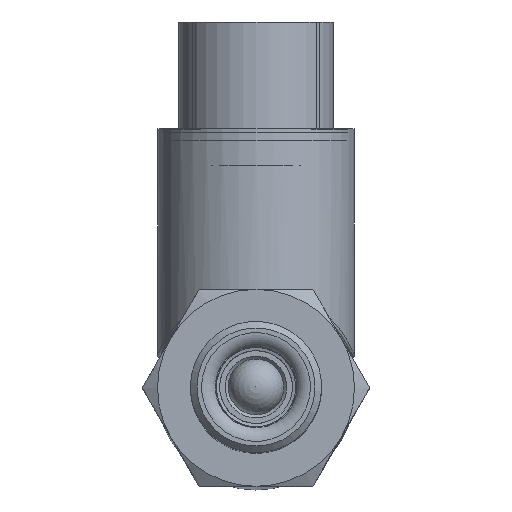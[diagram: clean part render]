
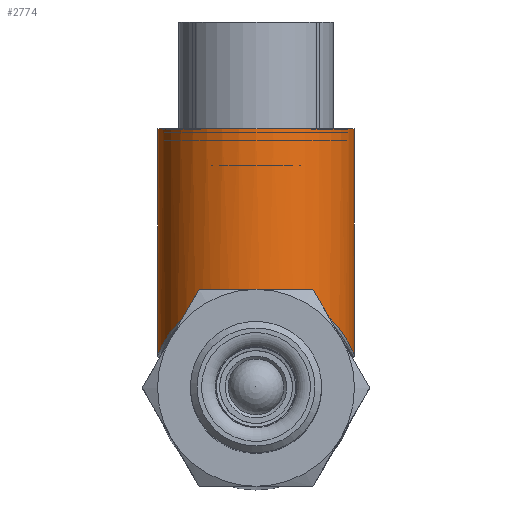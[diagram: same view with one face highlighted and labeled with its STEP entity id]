
A CAD part, top view. The second image highlights one B-rep face of the part: STEP entity #2774.
In plain terms, the highlighted cylindrical face has radius 9.525 mm (diameter 19.05 mm), a full revolution.
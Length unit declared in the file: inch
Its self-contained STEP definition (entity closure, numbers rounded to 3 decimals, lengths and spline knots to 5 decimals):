
#70=B_SPLINE_CURVE_WITH_KNOTS('',3,(#6430,#6431,#6432,#6433,#6434,#6435,
#6436,#6437,#6438,#6439,#6440,#6441,#6442,#6443,#6444,#6445,#6446,#6447,
#6448,#6449,#6450,#6451,#6452,#6453,#6454,#6455,#6456,#6457,#6458,#6459,
#6460,#6461),.UNSPECIFIED.,.F.,.F.,(4,1,1,1,1,1,1,1,1,1,1,1,1,1,1,1,1,1,
1,1,1,1,1,1,1,1,1,1,1,4),(-9.63701,-9.40756,-9.17811,
-8.7192,-8.41326,-8.26029,-8.10733,
-8.03084,-7.95436,-7.80139,-7.49545,
-7.18952,-7.03655,-6.88358,-6.57764,
-6.27171,-5.96577,-5.65983,-5.35389,-5.04796,
-4.89499,-4.81851,-4.74202,-4.58905,
-4.43608,-4.3596,-4.13015,-3.67124,
-3.44179,-3.21234),.UNSPECIFIED.);
#314=FACE_OUTER_BOUND('',#521,.T.);
#521=EDGE_LOOP('',(#1956,#1957,#1958,#1959));
#713=LINE('',#6511,#843);
#843=VECTOR('',#3698,0.375);
#1012=CIRCLE('',#3171,0.375);
#1210=VERTEX_POINT('',#6395);
#1214=VERTEX_POINT('',#6510);
#1483=EDGE_CURVE('',#1210,#1210,#70,.T.);
#1486=EDGE_CURVE('',#1214,#1210,#713,.T.);
#1487=EDGE_CURVE('',#1214,#1214,#1012,.T.);
#1956=ORIENTED_EDGE('',*,*,#1486,.F.);
#1957=ORIENTED_EDGE('',*,*,#1487,.F.);
#1958=ORIENTED_EDGE('',*,*,#1486,.T.);
#1959=ORIENTED_EDGE('',*,*,#1483,.F.);
#2491=CYLINDRICAL_SURFACE('',#3170,0.375);
#2774=ADVANCED_FACE('',(#314),#2491,.T.);
#3170=AXIS2_PLACEMENT_3D('',#6509,#3696,#3697);
#3171=AXIS2_PLACEMENT_3D('',#6512,#3699,#3700);
#3696=DIRECTION('center_axis',(0.,1.,0.));
#3697=DIRECTION('ref_axis',(0.,0.,1.));
#3698=DIRECTION('',(0.,-1.,0.));
#3699=DIRECTION('center_axis',(0.,1.,0.));
#3700=DIRECTION('ref_axis',(0.,0.,1.));
#6395=CARTESIAN_POINT('',(0.,0.3875,-3.25));
#6430=CARTESIAN_POINT('Ctrl Pts',(0.,0.3875,
-3.25));
#6431=CARTESIAN_POINT('Ctrl Pts',(0.03115,0.3875,
-3.25));
#6432=CARTESIAN_POINT('Ctrl Pts',(0.09334,0.38036,
-3.24213));
#6433=CARTESIAN_POINT('Ctrl Pts',(0.20461,0.34112,-3.19842));
#6434=CARTESIAN_POINT('Ctrl Pts',(0.29321,0.27239,-3.12028));
#6435=CARTESIAN_POINT('Ctrl Pts',(0.34371,0.20217,-3.03171));
#6436=CARTESIAN_POINT('Ctrl Pts',(0.36561,0.15994,-2.96434));
#6437=CARTESIAN_POINT('Ctrl Pts',(0.37367,0.14038,-2.91654));
#6438=CARTESIAN_POINT('Ctrl Pts',(0.37544,0.13579,-2.875));
#6439=CARTESIAN_POINT('Ctrl Pts',(0.37368,0.14034,-2.83339));
#6440=CARTESIAN_POINT('Ctrl Pts',(0.3623,0.16811,-2.76673));
#6441=CARTESIAN_POINT('Ctrl Pts',(0.3297,0.22606,-2.68724));
#6442=CARTESIAN_POINT('Ctrl Pts',(0.27763,0.28269,-2.61851));
#6443=CARTESIAN_POINT('Ctrl Pts',(0.22289,0.32345,-2.57178));
#6444=CARTESIAN_POINT('Ctrl Pts',(0.15959,0.35862,-2.53194));
#6445=CARTESIAN_POINT('Ctrl Pts',(0.06403,0.38896,-2.49842));
#6446=CARTESIAN_POINT('Ctrl Pts',(-0.06402,0.38896,
-2.49834));
#6447=CARTESIAN_POINT('Ctrl Pts',(-0.17872,0.35265,
-2.5387));
#6448=CARTESIAN_POINT('Ctrl Pts',(-0.26716,0.29414,
-2.6048));
#6449=CARTESIAN_POINT('Ctrl Pts',(-0.32975,0.22599,
-2.68723));
#6450=CARTESIAN_POINT('Ctrl Pts',(-0.36229,0.16811,
-2.76679));
#6451=CARTESIAN_POINT('Ctrl Pts',(-0.37368,0.14035,
-2.83342));
#6452=CARTESIAN_POINT('Ctrl Pts',(-0.37544,0.1358,
-2.87502));
#6453=CARTESIAN_POINT('Ctrl Pts',(-0.37367,0.14039,
-2.91657));
#6454=CARTESIAN_POINT('Ctrl Pts',(-0.36558,0.15998,-2.96433));
#6455=CARTESIAN_POINT('Ctrl Pts',(-0.35195,0.18625,
-3.00643));
#6456=CARTESIAN_POINT('Ctrl Pts',(-0.33102,0.21985,
-3.0539));
#6457=CARTESIAN_POINT('Ctrl Pts',(-0.28642,0.27757,-3.12624));
#6458=CARTESIAN_POINT('Ctrl Pts',(-0.20457,0.3412,
-3.19851));
#6459=CARTESIAN_POINT('Ctrl Pts',(-0.09335,0.38031,
-3.24208));
#6460=CARTESIAN_POINT('Ctrl Pts',(-0.03115,0.3875,
-3.25));
#6461=CARTESIAN_POINT('Ctrl Pts',(0.,0.3875,
-3.25));
#6509=CARTESIAN_POINT('Origin',(0.,0.47,
-2.875));
#6510=CARTESIAN_POINT('',(0.,1.,-3.25));
#6511=CARTESIAN_POINT('',(0.,0.47,-3.25));
#6512=CARTESIAN_POINT('Origin',(0.,1.,
-2.875));
